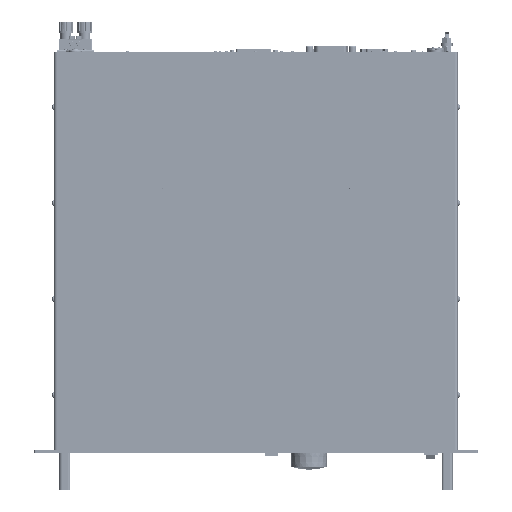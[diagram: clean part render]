
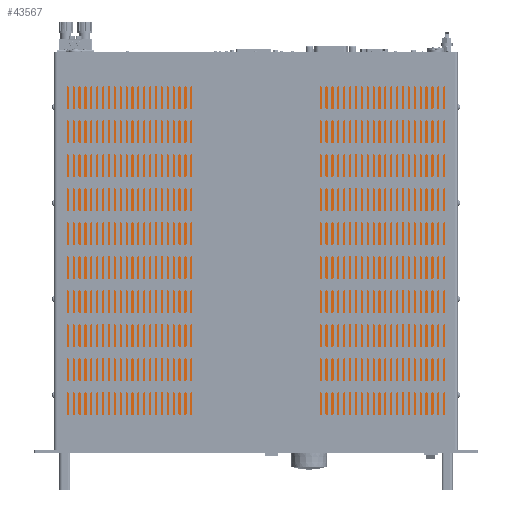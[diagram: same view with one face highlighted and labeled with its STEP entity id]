
A CAD part, top view. The second image highlights one B-rep face of the part: STEP entity #43567.
In plain terms, the highlighted planar face has unit normal (0, 0, 1).
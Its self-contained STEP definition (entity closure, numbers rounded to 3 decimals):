
#43567=ADVANCED_FACE('',(#91368),#91369,.T.);
#91368=FACE_OUTER_BOUND('',#179065,.T.);
#91369=PLANE('',#179066);
#179065=EDGE_LOOP('',(#305619,#305620,#305621,#305622));
#179066=AXIS2_PLACEMENT_3D('',#305623,#305624,#305625);
#305619=ORIENTED_EDGE('',*,*,#388529,.T.);
#305620=ORIENTED_EDGE('',*,*,#388530,.T.);
#305621=ORIENTED_EDGE('',*,*,#388531,.T.);
#305622=ORIENTED_EDGE('',*,*,#388532,.T.);
#305623=CARTESIAN_POINT('',(241.3,217.875,129.18));
#305624=DIRECTION('',(0.0,0.0,1.0));
#305625=DIRECTION('',(1.0,0.0,0.0));
#388529=EDGE_CURVE('',#467748,#467749,#467750,.T.);
#388530=EDGE_CURVE('',#467749,#467751,#467752,.T.);
#388531=EDGE_CURVE('',#467751,#467753,#467754,.T.);
#388532=EDGE_CURVE('',#467753,#467748,#467755,.T.);
#467748=VERTEX_POINT('',#586906);
#467749=VERTEX_POINT('',#586907);
#467750=LINE('',#586908,#586909);
#467751=VERTEX_POINT('',#586910);
#467752=LINE('',#586911,#586912);
#467753=VERTEX_POINT('',#586913);
#467754=LINE('',#586914,#586915);
#467755=LINE('',#586916,#586917);
#586906=CARTESIAN_POINT('',(456.727,6.75,129.18));
#586907=CARTESIAN_POINT('',(456.727,429.0,129.18));
#586908=CARTESIAN_POINT('',(456.727,217.875,129.18));
#586909=VECTOR('',#664352,1.0);
#586910=CARTESIAN_POINT('',(25.873,429.0,129.18));
#586911=CARTESIAN_POINT('',(241.3,429.0,129.18));
#586912=VECTOR('',#664353,1.0);
#586913=CARTESIAN_POINT('',(25.873,6.75,129.18));
#586914=CARTESIAN_POINT('',(25.873,217.875,129.18));
#586915=VECTOR('',#664354,1.0);
#586916=CARTESIAN_POINT('',(241.3,6.75,129.18));
#586917=VECTOR('',#664355,1.0);
#664352=DIRECTION('',(0.0,1.0,0.0));
#664353=DIRECTION('',(-1.0,0.0,0.0));
#664354=DIRECTION('',(0.0,-1.0,0.0));
#664355=DIRECTION('',(1.0,0.0,0.0));
